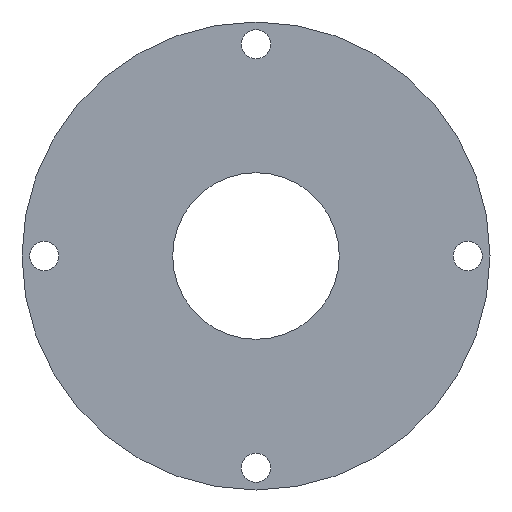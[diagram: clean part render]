
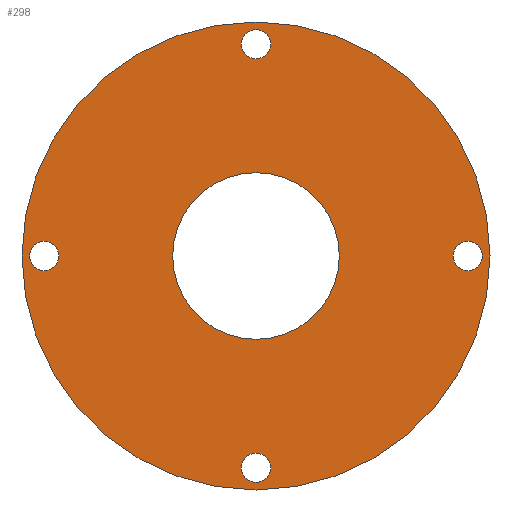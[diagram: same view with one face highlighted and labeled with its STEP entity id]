
A CAD part, front view. The second image highlights one B-rep face of the part: STEP entity #298.
In plain terms, the highlighted planar face has unit normal (0, -1, 0).
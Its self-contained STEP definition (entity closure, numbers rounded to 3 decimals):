
#6 = DIRECTION ( 'NONE',  ( 0., 1., 0. ) ) ;
#7 = ORIENTED_EDGE ( 'NONE', *, *, #274, .F. ) ;
#13 = EDGE_CURVE ( 'NONE', #57, #199, #282, .T. ) ;
#19 = DIRECTION ( 'NONE',  ( 0., 1., 0. ) ) ;
#23 = CARTESIAN_POINT ( 'NONE',  ( 15.25, 0., 0. ) ) ;
#28 = CARTESIAN_POINT ( 'NONE',  ( 0., 0., -16.85 ) ) ;
#29 = DIRECTION ( 'NONE',  ( 0., 0., 1. ) ) ;
#30 = EDGE_CURVE ( 'NONE', #396, #470, #62, .T. ) ;
#36 = ORIENTED_EDGE ( 'NONE', *, *, #111, .T. ) ;
#39 = DIRECTION ( 'NONE',  ( 0., 1., 0. ) ) ;
#44 = CARTESIAN_POINT ( 'NONE',  ( 0., 0., 16.3 ) ) ;
#45 = CARTESIAN_POINT ( 'NONE',  ( 0., 0., 0. ) ) ;
#49 = CARTESIAN_POINT ( 'NONE',  ( 0., 0., 6. ) ) ;
#50 = DIRECTION ( 'NONE',  ( 0., 0., 1. ) ) ;
#54 = AXIS2_PLACEMENT_3D ( 'NONE', #209, #289, #84 ) ;
#55 = EDGE_CURVE ( 'NONE', #147, #334, #142, .T. ) ;
#57 = VERTEX_POINT ( 'NONE', #300 ) ;
#58 = DIRECTION ( 'NONE',  ( 0., 0., 1. ) ) ;
#59 = DIRECTION ( 'NONE',  ( 0., 0., 1. ) ) ;
#60 = EDGE_CURVE ( 'NONE', #237, #182, #500, .T. ) ;
#62 = CIRCLE ( 'NONE', #194, 6. ) ;
#74 = DIRECTION ( 'NONE',  ( 0., 0., 1. ) ) ;
#78 = CARTESIAN_POINT ( 'NONE',  ( 0., 0., -6. ) ) ;
#82 = DIRECTION ( 'NONE',  ( 0., 0., 1. ) ) ;
#83 = EDGE_CURVE ( 'NONE', #358, #121, #175, .T. ) ;
#84 = DIRECTION ( 'NONE',  ( 0., 0., 1. ) ) ;
#86 = DIRECTION ( 'NONE',  ( 0., 1., 0. ) ) ;
#97 = DIRECTION ( 'NONE',  ( 0., 1., 0. ) ) ;
#102 = DIRECTION ( 'NONE',  ( 0., 1., 0. ) ) ;
#103 = CIRCLE ( 'NONE', #330, 1.05 ) ;
#106 = DIRECTION ( 'NONE',  ( 0., 1., 0. ) ) ;
#108 = CIRCLE ( 'NONE', #391, 1.05 ) ;
#109 = AXIS2_PLACEMENT_3D ( 'NONE', #473, #39, #82 ) ;
#111 = EDGE_CURVE ( 'NONE', #159, #200, #108, .T. ) ;
#114 = EDGE_CURVE ( 'NONE', #200, #159, #103, .T. ) ;
#115 = DIRECTION ( 'NONE',  ( 0., 1., 0. ) ) ;
#121 = VERTEX_POINT ( 'NONE', #140 ) ;
#124 = CARTESIAN_POINT ( 'NONE',  ( 0., 0., -15.25 ) ) ;
#126 = EDGE_LOOP ( 'NONE', ( #293, #406 ) ) ;
#134 = ORIENTED_EDGE ( 'NONE', *, *, #55, .T. ) ;
#135 = CARTESIAN_POINT ( 'NONE',  ( 0., 0., -15.25 ) ) ;
#136 = AXIS2_PLACEMENT_3D ( 'NONE', #45, #115, #441 ) ;
#139 = FACE_BOUND ( 'NONE', #126, .T. ) ;
#140 = CARTESIAN_POINT ( 'NONE',  ( 0., 0., 14.2 ) ) ;
#142 = CIRCLE ( 'NONE', #278, 1.05 ) ;
#145 = EDGE_CURVE ( 'NONE', #121, #358, #325, .T. ) ;
#147 = VERTEX_POINT ( 'NONE', #493 ) ;
#148 = FACE_BOUND ( 'NONE', #192, .T. ) ;
#159 = VERTEX_POINT ( 'NONE', #280 ) ;
#165 = AXIS2_PLACEMENT_3D ( 'NONE', #338, #102, #271 ) ;
#166 = EDGE_LOOP ( 'NONE', ( #458, #134 ) ) ;
#175 = CIRCLE ( 'NONE', #180, 1.05 ) ;
#180 = AXIS2_PLACEMENT_3D ( 'NONE', #378, #383, #380 ) ;
#181 = FACE_BOUND ( 'NONE', #444, .T. ) ;
#182 = VERTEX_POINT ( 'NONE', #508 ) ;
#183 = DIRECTION ( 'NONE',  ( 0., 1., 0. ) ) ;
#192 = EDGE_LOOP ( 'NONE', ( #345, #393 ) ) ;
#194 = AXIS2_PLACEMENT_3D ( 'NONE', #483, #86, #370 ) ;
#196 = CIRCLE ( 'NONE', #437, 1.05 ) ;
#199 = VERTEX_POINT ( 'NONE', #28 ) ;
#200 = VERTEX_POINT ( 'NONE', #464 ) ;
#209 = CARTESIAN_POINT ( 'NONE',  ( 0., 0., 0. ) ) ;
#220 = CARTESIAN_POINT ( 'NONE',  ( 0., 0., 15.25 ) ) ;
#223 = AXIS2_PLACEMENT_3D ( 'NONE', #246, #6, #74 ) ;
#224 = CIRCLE ( 'NONE', #328, 6. ) ;
#226 = CIRCLE ( 'NONE', #223, 1.05 ) ;
#237 = VERTEX_POINT ( 'NONE', #472 ) ;
#246 = CARTESIAN_POINT ( 'NONE',  ( -15.25, 0., 0. ) ) ;
#263 = DIRECTION ( 'NONE',  ( 0., 1., 0. ) ) ;
#271 = DIRECTION ( 'NONE',  ( 0., 0., 1. ) ) ;
#274 = EDGE_CURVE ( 'NONE', #199, #57, #401, .T. ) ;
#277 = ORIENTED_EDGE ( 'NONE', *, *, #114, .T. ) ;
#278 = AXIS2_PLACEMENT_3D ( 'NONE', #135, #183, #494 ) ;
#280 = CARTESIAN_POINT ( 'NONE',  ( 15.25, 0., 1.05 ) ) ;
#282 = CIRCLE ( 'NONE', #54, 16.85 ) ;
#289 = DIRECTION ( 'NONE',  ( 0., 1., 0. ) ) ;
#290 = CARTESIAN_POINT ( 'NONE',  ( 0., 0., 0. ) ) ;
#293 = ORIENTED_EDGE ( 'NONE', *, *, #60, .T. ) ;
#298 = ADVANCED_FACE ( 'NONE', ( #457, #181, #301, #139, #443, #148 ), #438, .F. ) ;
#300 = CARTESIAN_POINT ( 'NONE',  ( 0., 0., 16.85 ) ) ;
#301 = FACE_BOUND ( 'NONE', #323, .T. ) ;
#308 = EDGE_CURVE ( 'NONE', #182, #237, #226, .T. ) ;
#311 = EDGE_LOOP ( 'NONE', ( #7, #388 ) ) ;
#323 = EDGE_LOOP ( 'NONE', ( #394, #326 ) ) ;
#325 = CIRCLE ( 'NONE', #439, 1.05 ) ;
#326 = ORIENTED_EDGE ( 'NONE', *, *, #145, .T. ) ;
#328 = AXIS2_PLACEMENT_3D ( 'NONE', #290, #369, #50 ) ;
#330 = AXIS2_PLACEMENT_3D ( 'NONE', #23, #97, #58 ) ;
#334 = VERTEX_POINT ( 'NONE', #476 ) ;
#338 = CARTESIAN_POINT ( 'NONE',  ( -15.25, 0., 0. ) ) ;
#345 = ORIENTED_EDGE ( 'NONE', *, *, #30, .T. ) ;
#358 = VERTEX_POINT ( 'NONE', #44 ) ;
#366 = DIRECTION ( 'NONE',  ( 0., 0., 1. ) ) ;
#369 = DIRECTION ( 'NONE',  ( 0., 1., 0. ) ) ;
#370 = DIRECTION ( 'NONE',  ( 0., 0., 1. ) ) ;
#378 = CARTESIAN_POINT ( 'NONE',  ( 0., 0., 15.25 ) ) ;
#380 = DIRECTION ( 'NONE',  ( 0., 0., 1. ) ) ;
#383 = DIRECTION ( 'NONE',  ( 0., 1., 0. ) ) ;
#388 = ORIENTED_EDGE ( 'NONE', *, *, #13, .F. ) ;
#391 = AXIS2_PLACEMENT_3D ( 'NONE', #496, #263, #59 ) ;
#393 = ORIENTED_EDGE ( 'NONE', *, *, #503, .T. ) ;
#394 = ORIENTED_EDGE ( 'NONE', *, *, #83, .T. ) ;
#396 = VERTEX_POINT ( 'NONE', #78 ) ;
#401 = CIRCLE ( 'NONE', #109, 16.85 ) ;
#406 = ORIENTED_EDGE ( 'NONE', *, *, #308, .T. ) ;
#437 = AXIS2_PLACEMENT_3D ( 'NONE', #124, #19, #366 ) ;
#438 = PLANE ( 'NONE',  #136 ) ;
#439 = AXIS2_PLACEMENT_3D ( 'NONE', #220, #106, #29 ) ;
#441 = DIRECTION ( 'NONE',  ( 0., 0., 1. ) ) ;
#443 = FACE_OUTER_BOUND ( 'NONE', #311, .T. ) ;
#444 = EDGE_LOOP ( 'NONE', ( #36, #277 ) ) ;
#457 = FACE_BOUND ( 'NONE', #166, .T. ) ;
#458 = ORIENTED_EDGE ( 'NONE', *, *, #490, .T. ) ;
#464 = CARTESIAN_POINT ( 'NONE',  ( 15.25, 0., -1.05 ) ) ;
#470 = VERTEX_POINT ( 'NONE', #49 ) ;
#472 = CARTESIAN_POINT ( 'NONE',  ( -15.25, 0., 1.05 ) ) ;
#473 = CARTESIAN_POINT ( 'NONE',  ( 0., 0., 0. ) ) ;
#476 = CARTESIAN_POINT ( 'NONE',  ( 0., 0., -14.2 ) ) ;
#483 = CARTESIAN_POINT ( 'NONE',  ( 0., 0., 0. ) ) ;
#490 = EDGE_CURVE ( 'NONE', #334, #147, #196, .T. ) ;
#493 = CARTESIAN_POINT ( 'NONE',  ( 0., 0., -16.3 ) ) ;
#494 = DIRECTION ( 'NONE',  ( 0., 0., 1. ) ) ;
#496 = CARTESIAN_POINT ( 'NONE',  ( 15.25, 0., 0. ) ) ;
#500 = CIRCLE ( 'NONE', #165, 1.05 ) ;
#503 = EDGE_CURVE ( 'NONE', #470, #396, #224, .T. ) ;
#508 = CARTESIAN_POINT ( 'NONE',  ( -15.25, 0., -1.05 ) ) ;
